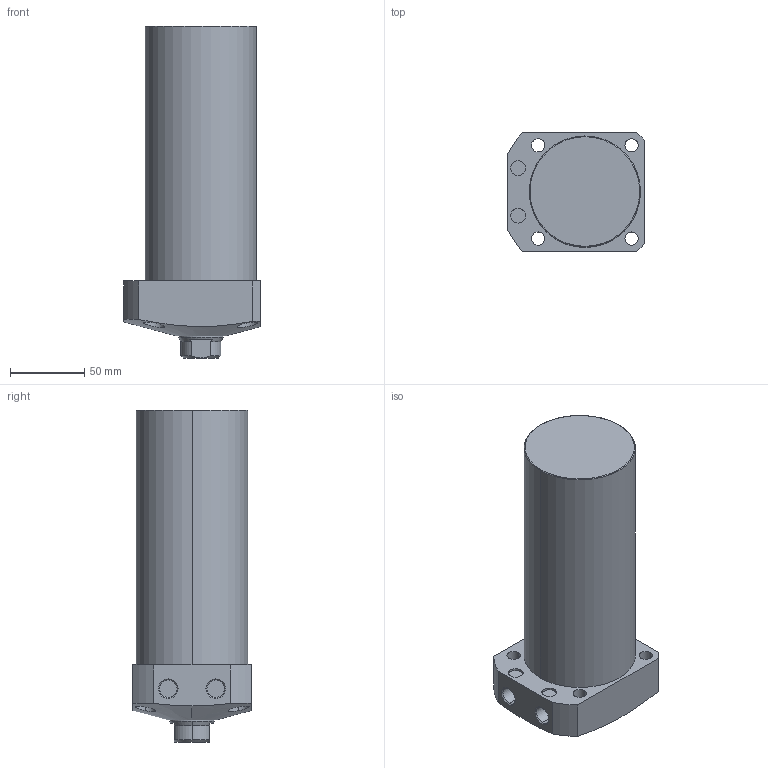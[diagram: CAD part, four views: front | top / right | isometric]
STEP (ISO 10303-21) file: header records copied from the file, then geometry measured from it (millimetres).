
FILE_DESCRIPTION (( 'STEP AP203' ), '1' );
FILE_NAME ('CLL-075CA-135.STEP', '2019-12-23T08:52:54', ( '' ), ( '' ), 'SwSTEP 2.0', 'SolidWorks 2015', '' );
FILE_SCHEMA (( 'CONFIG_CONTROL_DESIGN' ));
Length unit declared in the file: millimetre
Products named in the file (1): CLL-075CA-135
Bounding box: 92 x 80 x 224 mm (x, y, z)
Volume: 978930.7 mm3; surface area: 72860.9 mm2
Topology: 1 solids, 1 shells, 74 faces, 171 edges, 108 vertices
Faces by surface type: cylinder 35, plane 22, cone 15, torus 2
Entity records: 2610 total; most frequent: CARTESIAN_POINT 815, DIRECTION 376, ORIENTED_EDGE 338, EDGE_CURVE 169, AXIS2_PLACEMENT_3D 156, VERTEX_POINT 108, EDGE_LOOP 93, CIRCLE 81
